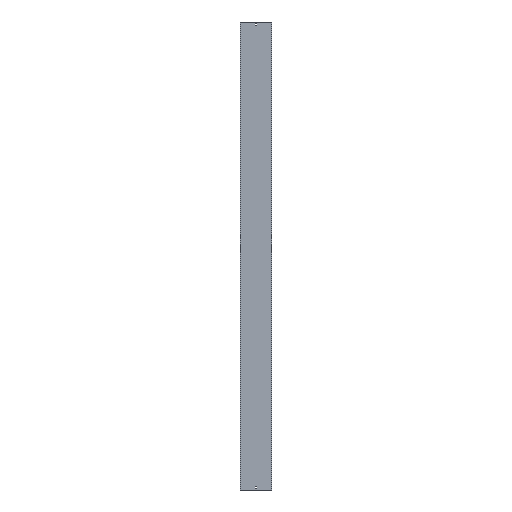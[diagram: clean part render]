
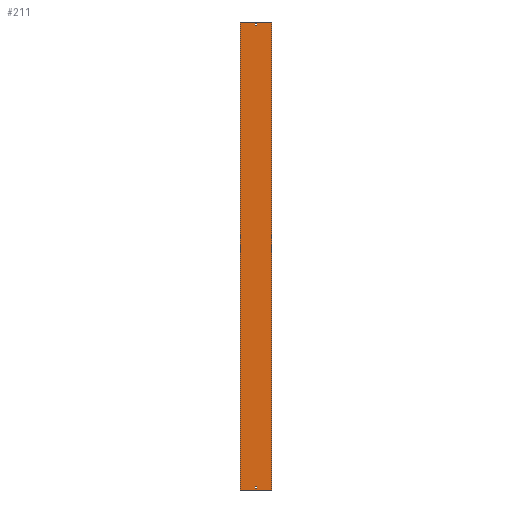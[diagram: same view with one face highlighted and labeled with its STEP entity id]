
A CAD part, front view. The second image highlights one B-rep face of the part: STEP entity #211.
In plain terms, the highlighted planar face has unit normal (0, -1, 0).
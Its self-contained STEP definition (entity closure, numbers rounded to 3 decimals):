
#2 = CARTESIAN_POINT ( 'NONE',  ( -3.25, 0., 1479. ) ) ;
#10 = CARTESIAN_POINT ( 'NONE',  ( -3.25, 0., -1479. ) ) ;
#16 = VERTEX_POINT ( 'NONE', #958 ) ;
#20 = EDGE_CURVE ( 'NONE', #1070, #16, #178, .T. ) ;
#44 = VECTOR ( 'NONE', #647, 1000. ) ;
#45 = EDGE_CURVE ( 'NONE', #913, #442, #784, .T. ) ;
#56 = CARTESIAN_POINT ( 'NONE',  ( -3.25, 0., 1479. ) ) ;
#68 = AXIS2_PLACEMENT_3D ( 'NONE', #489, #392, #1008 ) ;
#75 = VECTOR ( 'NONE', #552, 1000. ) ;
#84 = VECTOR ( 'NONE', #537, 1000. ) ;
#95 = LINE ( 'NONE', #352, #84 ) ;
#106 = DIRECTION ( 'NONE',  ( 1., 0., 0. ) ) ;
#120 = DIRECTION ( 'NONE',  ( 0., 0., -1. ) ) ;
#124 = EDGE_CURVE ( 'NONE', #442, #339, #556, .T. ) ;
#125 = LINE ( 'NONE', #646, #644 ) ;
#156 = CARTESIAN_POINT ( 'NONE',  ( -3.25, 0., -1488. ) ) ;
#157 = VERTEX_POINT ( 'NONE', #906 ) ;
#158 = EDGE_CURVE ( 'NONE', #923, #274, #1086, .T. ) ;
#161 = CARTESIAN_POINT ( 'NONE',  ( -102., 0., 1500. ) ) ;
#178 = LINE ( 'NONE', #375, #968 ) ;
#181 = DIRECTION ( 'NONE',  ( -1., 0., 0. ) ) ;
#199 = EDGE_CURVE ( 'NONE', #254, #913, #125, .T. ) ;
#211 = ADVANCED_FACE ( 'NONE', ( #1104, #410, #816 ), #653, .F. ) ;
#212 = LINE ( 'NONE', #393, #44 ) ;
#215 = CARTESIAN_POINT ( 'NONE',  ( -3.25, 0., 1488. ) ) ;
#254 = VERTEX_POINT ( 'NONE', #866 ) ;
#258 = ORIENTED_EDGE ( 'NONE', *, *, #45, .F. ) ;
#274 = VERTEX_POINT ( 'NONE', #10 ) ;
#281 = EDGE_CURVE ( 'NONE', #339, #254, #1065, .T. ) ;
#287 = EDGE_CURVE ( 'NONE', #916, #1070, #719, .T. ) ;
#309 = VECTOR ( 'NONE', #388, 1000. ) ;
#339 = VERTEX_POINT ( 'NONE', #56 ) ;
#347 = CARTESIAN_POINT ( 'NONE',  ( -102., 0., -1500. ) ) ;
#352 = CARTESIAN_POINT ( 'NONE',  ( 3.25, 0., -1488. ) ) ;
#358 = EDGE_CURVE ( 'NONE', #274, #1007, #212, .T. ) ;
#370 = ORIENTED_EDGE ( 'NONE', *, *, #690, .F. ) ;
#375 = CARTESIAN_POINT ( 'NONE',  ( -102., 0., -1500. ) ) ;
#388 = DIRECTION ( 'NONE',  ( 1., 0., 0. ) ) ;
#392 = DIRECTION ( 'NONE',  ( 0., 1., 0. ) ) ;
#393 = CARTESIAN_POINT ( 'NONE',  ( -3.25, 0., -1479. ) ) ;
#405 = ORIENTED_EDGE ( 'NONE', *, *, #990, .T. ) ;
#410 = FACE_BOUND ( 'NONE', #534, .T. ) ;
#431 = ORIENTED_EDGE ( 'NONE', *, *, #158, .T. ) ;
#441 = VECTOR ( 'NONE', #565, 1000. ) ;
#442 = VERTEX_POINT ( 'NONE', #925 ) ;
#450 = CARTESIAN_POINT ( 'NONE',  ( -3.25, 0., 1488. ) ) ;
#453 = CARTESIAN_POINT ( 'NONE',  ( 102., 0., 1500. ) ) ;
#463 = ORIENTED_EDGE ( 'NONE', *, *, #358, .T. ) ;
#489 = CARTESIAN_POINT ( 'NONE',  ( -102., 0., 1500. ) ) ;
#507 = EDGE_LOOP ( 'NONE', ( #820, #370, #942, #583 ) ) ;
#513 = EDGE_CURVE ( 'NONE', #916, #1098, #843, .T. ) ;
#534 = EDGE_LOOP ( 'NONE', ( #1042, #739, #258, #789 ) ) ;
#537 = DIRECTION ( 'NONE',  ( 0., 0., -1. ) ) ;
#548 = LINE ( 'NONE', #980, #643 ) ;
#552 = DIRECTION ( 'NONE',  ( -1., 0., 0. ) ) ;
#555 = CARTESIAN_POINT ( 'NONE',  ( 102., 0., 1500. ) ) ;
#556 = LINE ( 'NONE', #215, #441 ) ;
#565 = DIRECTION ( 'NONE',  ( 0., 0., -1. ) ) ;
#583 = ORIENTED_EDGE ( 'NONE', *, *, #287, .T. ) ;
#587 = DIRECTION ( 'NONE',  ( 1., 0., 0. ) ) ;
#619 = DIRECTION ( 'NONE',  ( 0., 0., -1. ) ) ;
#643 = VECTOR ( 'NONE', #181, 1000. ) ;
#644 = VECTOR ( 'NONE', #729, 1000. ) ;
#646 = CARTESIAN_POINT ( 'NONE',  ( 3.25, 0., 1488. ) ) ;
#647 = DIRECTION ( 'NONE',  ( 1., 0., 0. ) ) ;
#653 = PLANE ( 'NONE',  #68 ) ;
#686 = CARTESIAN_POINT ( 'NONE',  ( 3.25, 0., -1479. ) ) ;
#690 = EDGE_CURVE ( 'NONE', #1098, #16, #934, .T. ) ;
#719 = LINE ( 'NONE', #987, #770 ) ;
#723 = VECTOR ( 'NONE', #587, 1000. ) ;
#729 = DIRECTION ( 'NONE',  ( 0., 0., 1. ) ) ;
#739 = ORIENTED_EDGE ( 'NONE', *, *, #124, .F. ) ;
#770 = VECTOR ( 'NONE', #619, 1000. ) ;
#784 = LINE ( 'NONE', #450, #75 ) ;
#789 = ORIENTED_EDGE ( 'NONE', *, *, #199, .F. ) ;
#816 = FACE_BOUND ( 'NONE', #1113, .T. ) ;
#820 = ORIENTED_EDGE ( 'NONE', *, *, #20, .T. ) ;
#831 = ORIENTED_EDGE ( 'NONE', *, *, #1103, .T. ) ;
#834 = CARTESIAN_POINT ( 'NONE',  ( 3.25, 0., 1488. ) ) ;
#843 = LINE ( 'NONE', #948, #723 ) ;
#866 = CARTESIAN_POINT ( 'NONE',  ( 3.25, 0., 1479. ) ) ;
#906 = CARTESIAN_POINT ( 'NONE',  ( 3.25, 0., -1488. ) ) ;
#911 = CARTESIAN_POINT ( 'NONE',  ( -3.25, 0., -1488. ) ) ;
#913 = VERTEX_POINT ( 'NONE', #834 ) ;
#916 = VERTEX_POINT ( 'NONE', #161 ) ;
#923 = VERTEX_POINT ( 'NONE', #156 ) ;
#925 = CARTESIAN_POINT ( 'NONE',  ( -3.25, 0., 1488. ) ) ;
#934 = LINE ( 'NONE', #555, #1078 ) ;
#942 = ORIENTED_EDGE ( 'NONE', *, *, #513, .F. ) ;
#948 = CARTESIAN_POINT ( 'NONE',  ( -102., 0., 1500. ) ) ;
#958 = CARTESIAN_POINT ( 'NONE',  ( 102., 0., -1500. ) ) ;
#968 = VECTOR ( 'NONE', #106, 1000. ) ;
#980 = CARTESIAN_POINT ( 'NONE',  ( -3.25, 0., -1488. ) ) ;
#987 = CARTESIAN_POINT ( 'NONE',  ( -102., 0., 1500. ) ) ;
#990 = EDGE_CURVE ( 'NONE', #1007, #157, #95, .T. ) ;
#1007 = VERTEX_POINT ( 'NONE', #686 ) ;
#1008 = DIRECTION ( 'NONE',  ( -1., 0., 0. ) ) ;
#1014 = DIRECTION ( 'NONE',  ( 0., 0., 1. ) ) ;
#1042 = ORIENTED_EDGE ( 'NONE', *, *, #281, .F. ) ;
#1065 = LINE ( 'NONE', #2, #309 ) ;
#1070 = VERTEX_POINT ( 'NONE', #347 ) ;
#1078 = VECTOR ( 'NONE', #120, 1000. ) ;
#1086 = LINE ( 'NONE', #911, #1087 ) ;
#1087 = VECTOR ( 'NONE', #1014, 1000. ) ;
#1098 = VERTEX_POINT ( 'NONE', #453 ) ;
#1103 = EDGE_CURVE ( 'NONE', #157, #923, #548, .T. ) ;
#1104 = FACE_OUTER_BOUND ( 'NONE', #507, .T. ) ;
#1113 = EDGE_LOOP ( 'NONE', ( #431, #463, #405, #831 ) ) ;
